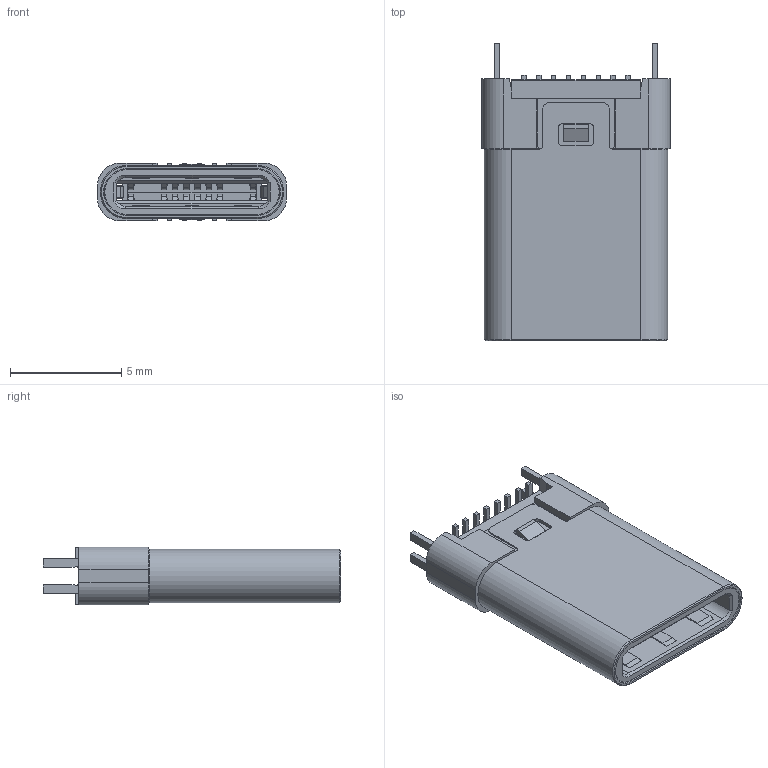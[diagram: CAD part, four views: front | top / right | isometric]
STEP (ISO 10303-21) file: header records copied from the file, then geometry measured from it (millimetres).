
FILE_DESCRIPTION((''),'2;1');
FILE_NAME('111','2023-02-24T14:25:38',('Administrator'),(''),'CREO PARAMETRIC BY PTC INC, 2019080','CREO PARAMETRIC BY PTC INC, 2019080','');
FILE_SCHEMA(('CONFIG_CONTROL_DESIGN'));
Length unit declared in the file: millimetre
Products named in the file (1): 111
Bounding box: 8.5 x 13.39 x 2.6 mm (x, y, z)
Surface area: 1219.3 mm2 (no closed solid volume)
Topology: 0 solids, 22 shells, 1094 faces, 3088 edges, 2044 vertices
Faces by surface type: plane 756, cylinder 322, cone 16
Entity records: 35281 total; most frequent: CARTESIAN_POINT 6264, ORIENTED_EDGE 6176, DIRECTION 5960, EDGE_CURVE 3088, VECTOR 2388, LINE 2388, VERTEX_POINT 2044, AXIS2_PLACEMENT_3D 1786
